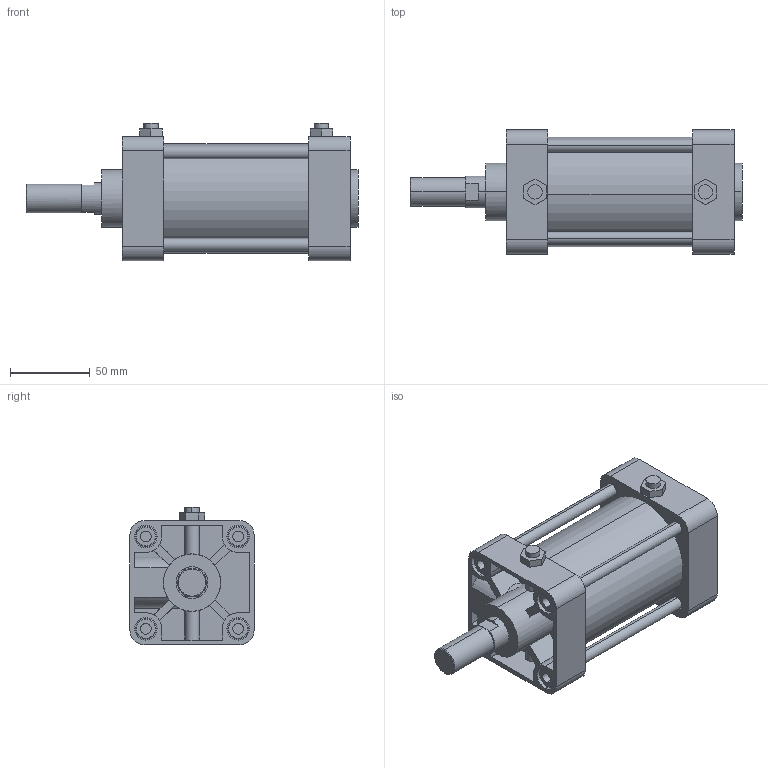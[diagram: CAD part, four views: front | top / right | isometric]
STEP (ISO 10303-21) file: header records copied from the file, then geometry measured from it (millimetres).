
FILE_DESCRIPTION (( 'STEP AP203' ), '1' );
FILE_NAME ('KG2-63-50-N.STEP', '2016-04-01T08:16:27', ( '' ), ( '' ), 'SwSTEP 2.0', 'SolidWorks 2014', '' );
FILE_SCHEMA (( 'CONFIG_CONTROL_DESIGN' ));
Length unit declared in the file: millimetre
Products named in the file (6): KG2-63-After; KG2-63-50-N; KGLH2-63-50
Assembly tree (15 placements, depth 2):
  KG2-63-50-N
    KG2-63-After
    KGLH2-63-50
    (unnamed)
    (unnamed)  x4
    (unnamed)  x8
Bounding box: 208.5 x 78 x 86.3 mm (x, y, z)
Volume: 601913.6 mm3; surface area: 119446.8 mm2
Topology: 15 solids, 15 shells, 315 faces, 746 edges, 476 vertices
Faces by surface type: plane 137, cylinder 120, torus 32, cone 26
Entity records: 7803 total; most frequent: CARTESIAN_POINT 1388, DIRECTION 1216, ORIENTED_EDGE 1112, EDGE_CURVE 556, AXIS2_PLACEMENT_3D 449, VERTEX_POINT 366, VECTOR 318, LINE 318
